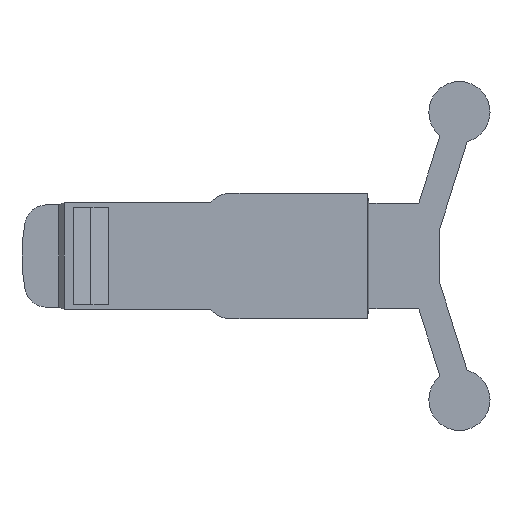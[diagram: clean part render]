
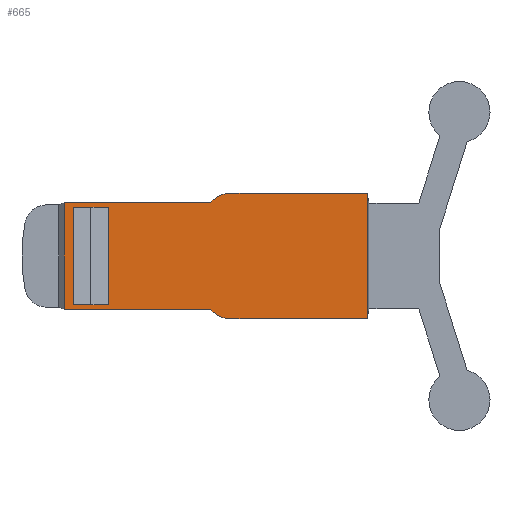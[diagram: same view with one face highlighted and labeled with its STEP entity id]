
A CAD part, front view. The second image highlights one B-rep face of the part: STEP entity #665.
In plain terms, the highlighted planar face has unit normal (0, -1, 0).
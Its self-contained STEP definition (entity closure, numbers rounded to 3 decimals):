
#2 = EDGE_CURVE ( 'NONE', #2110, #80, #2207, .T. ) ;
#3 = CARTESIAN_POINT ( 'NONE',  ( -2.775, -4., -5.65 ) ) ;
#4 = CARTESIAN_POINT ( 'NONE',  ( -2.039, -4., -4.8 ) ) ;
#31 = CARTESIAN_POINT ( 'NONE',  ( -11.199, -4., 4.4 ) ) ;
#62 = DIRECTION ( 'NONE',  ( 0., 0., 1. ) ) ;
#63 = CARTESIAN_POINT ( 'NONE',  ( -0.275, -4., -5.65 ) ) ;
#80 = VERTEX_POINT ( 'NONE', #1906 ) ;
#122 = FACE_BOUND ( 'NONE', #280, .T. ) ;
#124 = CARTESIAN_POINT ( 'NONE',  ( -11.199, -4., -4.4 ) ) ;
#134 = FACE_OUTER_BOUND ( 'NONE', #1815, .T. ) ;
#150 = CARTESIAN_POINT ( 'NONE',  ( -0.945, -4., 5.65 ) ) ;
#164 =( BOUNDED_CURVE ( )  B_SPLINE_CURVE ( 3, ( #1885, #150, #1366, #1346 ),
 .UNSPECIFIED., .F., .T. ) 
 B_SPLINE_CURVE_WITH_KNOTS ( ( 4, 4 ),
 ( 0., 0.783 ),
 .UNSPECIFIED. ) 
 CURVE ( )  GEOMETRIC_REPRESENTATION_ITEM ( )  RATIONAL_B_SPLINE_CURVE ( ( 1., 0.95, 0.95, 1. ) ) 
 REPRESENTATION_ITEM ( '' )  );
#170 = DIRECTION ( 'NONE',  ( 1., 0., 0. ) ) ;
#209 = EDGE_CURVE ( 'NONE', #269, #1772, #948, .T. ) ;
#222 = ORIENTED_EDGE ( 'NONE', *, *, #2, .F. ) ;
#243 = VERTEX_POINT ( 'NONE', #588 ) ;
#252 = CARTESIAN_POINT ( 'NONE',  ( -14.379, -4., -4.4 ) ) ;
#269 = VERTEX_POINT ( 'NONE', #124 ) ;
#274 = CARTESIAN_POINT ( 'NONE',  ( 12.094, -4., -4.8 ) ) ;
#280 = EDGE_LOOP ( 'NONE', ( #403, #1871, #545, #1909, #2062, #1652 ) ) ;
#348 = CARTESIAN_POINT ( 'NONE',  ( -15.179, -4., -4.8 ) ) ;
#352 = DIRECTION ( 'NONE',  ( 1., 0., 0. ) ) ;
#376 = CARTESIAN_POINT ( 'NONE',  ( -14.379, -4., 4.4 ) ) ;
#387 = CARTESIAN_POINT ( 'NONE',  ( -0.275, -4., -5.65 ) ) ;
#403 = ORIENTED_EDGE ( 'NONE', *, *, #2210, .F. ) ;
#427 = VECTOR ( 'NONE', #62, 1000. ) ;
#446 = EDGE_CURVE ( 'NONE', #1404, #947, #1118, .T. ) ;
#465 = ORIENTED_EDGE ( 'NONE', *, *, #1743, .T. ) ;
#502 = EDGE_CURVE ( 'NONE', #1168, #1672, #1086, .T. ) ;
#507 = CARTESIAN_POINT ( 'NONE',  ( -12.789, -4., -4.4 ) ) ;
#518 = CARTESIAN_POINT ( 'NONE',  ( 12.094, -4., -5.65 ) ) ;
#520 = LINE ( 'NONE', #3, #1904 ) ;
#531 = ORIENTED_EDGE ( 'NONE', *, *, #502, .T. ) ;
#537 = DIRECTION ( 'NONE',  ( 0., 0., 1. ) ) ;
#545 = ORIENTED_EDGE ( 'NONE', *, *, #209, .T. ) ;
#588 = CARTESIAN_POINT ( 'NONE',  ( -11.199, -4., 4.4 ) ) ;
#641 = VERTEX_POINT ( 'NONE', #1174 ) ;
#650 = CARTESIAN_POINT ( 'NONE',  ( -15.375, -4., 4.8 ) ) ;
#653 = DIRECTION ( 'NONE',  ( -1., 0., 0. ) ) ;
#662 = ORIENTED_EDGE ( 'NONE', *, *, #1175, .F. ) ;
#665 = ADVANCED_FACE ( 'NONE', ( #122, #134 ), #822, .T. ) ;
#666 = AXIS2_PLACEMENT_3D ( 'NONE', #1320, #1830, #807 ) ;
#671 = VECTOR ( 'NONE', #857, 1000. ) ;
#706 = EDGE_CURVE ( 'NONE', #1640, #1672, #1886, .T. ) ;
#714 = CARTESIAN_POINT ( 'NONE',  ( -1.564, -4., -5.352 ) ) ;
#759 = DIRECTION ( 'NONE',  ( 0., 0., -1. ) ) ;
#807 = DIRECTION ( 'NONE',  ( 1., 0., 0. ) ) ;
#808 = DIRECTION ( 'NONE',  ( -1., 0., 0. ) ) ;
#822 = PLANE ( 'NONE',  #666 ) ;
#824 = CARTESIAN_POINT ( 'NONE',  ( -12.789, -4., 4.4 ) ) ;
#830 = LINE ( 'NONE', #507, #2054 ) ;
#853 = VECTOR ( 'NONE', #170, 1000. ) ;
#857 = DIRECTION ( 'NONE',  ( 0., 0., -1. ) ) ;
#870 = LINE ( 'NONE', #348, #1973 ) ;
#883 = CARTESIAN_POINT ( 'NONE',  ( -2.775, -4., 5.65 ) ) ;
#914 = CARTESIAN_POINT ( 'NONE',  ( 12.094, -4., 5.65 ) ) ;
#947 = VERTEX_POINT ( 'NONE', #376 ) ;
#948 = LINE ( 'NONE', #2156, #1506 ) ;
#998 = EDGE_CURVE ( 'NONE', #1640, #80, #164, .T. ) ;
#1086 = LINE ( 'NONE', #274, #427 ) ;
#1118 = LINE ( 'NONE', #2159, #1242 ) ;
#1122 = CARTESIAN_POINT ( 'NONE',  ( -2.039, -4., -4.8 ) ) ;
#1164 = CARTESIAN_POINT ( 'NONE',  ( -15.375, -4., -4.8 ) ) ;
#1168 = VERTEX_POINT ( 'NONE', #518 ) ;
#1174 = CARTESIAN_POINT ( 'NONE',  ( -15.179, -4., -4.8 ) ) ;
#1175 = EDGE_CURVE ( 'NONE', #641, #2110, #870, .T. ) ;
#1189 = ORIENTED_EDGE ( 'NONE', *, *, #706, .F. ) ;
#1211 = VECTOR ( 'NONE', #1754, 1000. ) ;
#1240 = VERTEX_POINT ( 'NONE', #1122 ) ;
#1242 = VECTOR ( 'NONE', #1298, 1000. ) ;
#1298 = DIRECTION ( 'NONE',  ( -1., 0., 0. ) ) ;
#1299 = CARTESIAN_POINT ( 'NONE',  ( -0.275, -4., 5.65 ) ) ;
#1320 = CARTESIAN_POINT ( 'NONE',  ( -15.375, -4., -4.8 ) ) ;
#1344 = EDGE_CURVE ( 'NONE', #1772, #1663, #830, .T. ) ;
#1346 = CARTESIAN_POINT ( 'NONE',  ( -2.039, -4., 4.8 ) ) ;
#1366 = CARTESIAN_POINT ( 'NONE',  ( -1.564, -4., 5.352 ) ) ;
#1398 = CARTESIAN_POINT ( 'NONE',  ( -0.945, -4., -5.65 ) ) ;
#1404 = VERTEX_POINT ( 'NONE', #2040 ) ;
#1434 = CARTESIAN_POINT ( 'NONE',  ( -14.379, -4., 4.4 ) ) ;
#1494 = LINE ( 'NONE', #824, #1601 ) ;
#1506 = VECTOR ( 'NONE', #808, 1000. ) ;
#1521 = DIRECTION ( 'NONE',  ( -1., 0., 0. ) ) ;
#1533 = DIRECTION ( 'NONE',  ( 1., 0., 0. ) ) ;
#1540 = LINE ( 'NONE', #31, #671 ) ;
#1559 = EDGE_CURVE ( 'NONE', #1240, #1726, #1868, .T. ) ;
#1594 = LINE ( 'NONE', #1434, #2112 ) ;
#1601 = VECTOR ( 'NONE', #1521, 1000. ) ;
#1613 = ORIENTED_EDGE ( 'NONE', *, *, #998, .T. ) ;
#1614 = ORIENTED_EDGE ( 'NONE', *, *, #1559, .T. ) ;
#1630 = EDGE_CURVE ( 'NONE', #947, #1663, #1594, .T. ) ;
#1640 = VERTEX_POINT ( 'NONE', #1299 ) ;
#1652 = ORIENTED_EDGE ( 'NONE', *, *, #446, .F. ) ;
#1663 = VERTEX_POINT ( 'NONE', #252 ) ;
#1672 = VERTEX_POINT ( 'NONE', #914 ) ;
#1726 = VERTEX_POINT ( 'NONE', #63 ) ;
#1743 = EDGE_CURVE ( 'NONE', #641, #1240, #2028, .T. ) ;
#1754 = DIRECTION ( 'NONE',  ( 1., 0., 0. ) ) ;
#1772 = VERTEX_POINT ( 'NONE', #2208 ) ;
#1815 = EDGE_LOOP ( 'NONE', ( #465, #1614, #1982, #531, #1189, #1613, #222, #662 ) ) ;
#1830 = DIRECTION ( 'NONE',  ( 0., -1., 0. ) ) ;
#1868 =( BOUNDED_CURVE ( )  B_SPLINE_CURVE ( 3, ( #4, #714, #1398, #387 ),
 .UNSPECIFIED., .F., .T. ) 
 B_SPLINE_CURVE_WITH_KNOTS ( ( 4, 4 ),
 ( 2.358, 3.142 ),
 .UNSPECIFIED. ) 
 CURVE ( )  GEOMETRIC_REPRESENTATION_ITEM ( )  RATIONAL_B_SPLINE_CURVE ( ( 1., 0.95, 0.95, 1. ) ) 
 REPRESENTATION_ITEM ( '' )  );
#1871 = ORIENTED_EDGE ( 'NONE', *, *, #1900, .T. ) ;
#1885 = CARTESIAN_POINT ( 'NONE',  ( -0.275, -4., 5.65 ) ) ;
#1886 = LINE ( 'NONE', #883, #853 ) ;
#1899 = EDGE_CURVE ( 'NONE', #1726, #1168, #520, .T. ) ;
#1900 = EDGE_CURVE ( 'NONE', #243, #269, #1540, .T. ) ;
#1904 = VECTOR ( 'NONE', #352, 1000. ) ;
#1906 = CARTESIAN_POINT ( 'NONE',  ( -2.039, -4., 4.8 ) ) ;
#1909 = ORIENTED_EDGE ( 'NONE', *, *, #1344, .T. ) ;
#1945 = CARTESIAN_POINT ( 'NONE',  ( -15.179, -4., 4.8 ) ) ;
#1973 = VECTOR ( 'NONE', #537, 1000. ) ;
#1982 = ORIENTED_EDGE ( 'NONE', *, *, #1899, .T. ) ;
#2018 = VECTOR ( 'NONE', #1533, 1000. ) ;
#2028 = LINE ( 'NONE', #1164, #2018 ) ;
#2040 = CARTESIAN_POINT ( 'NONE',  ( -12.789, -4., 4.4 ) ) ;
#2054 = VECTOR ( 'NONE', #653, 1000. ) ;
#2062 = ORIENTED_EDGE ( 'NONE', *, *, #1630, .F. ) ;
#2110 = VERTEX_POINT ( 'NONE', #1945 ) ;
#2112 = VECTOR ( 'NONE', #759, 1000. ) ;
#2156 = CARTESIAN_POINT ( 'NONE',  ( -12.789, -4., -4.4 ) ) ;
#2159 = CARTESIAN_POINT ( 'NONE',  ( -12.789, -4., 4.4 ) ) ;
#2207 = LINE ( 'NONE', #650, #1211 ) ;
#2208 = CARTESIAN_POINT ( 'NONE',  ( -12.789, -4., -4.4 ) ) ;
#2210 = EDGE_CURVE ( 'NONE', #243, #1404, #1494, .T. ) ;
